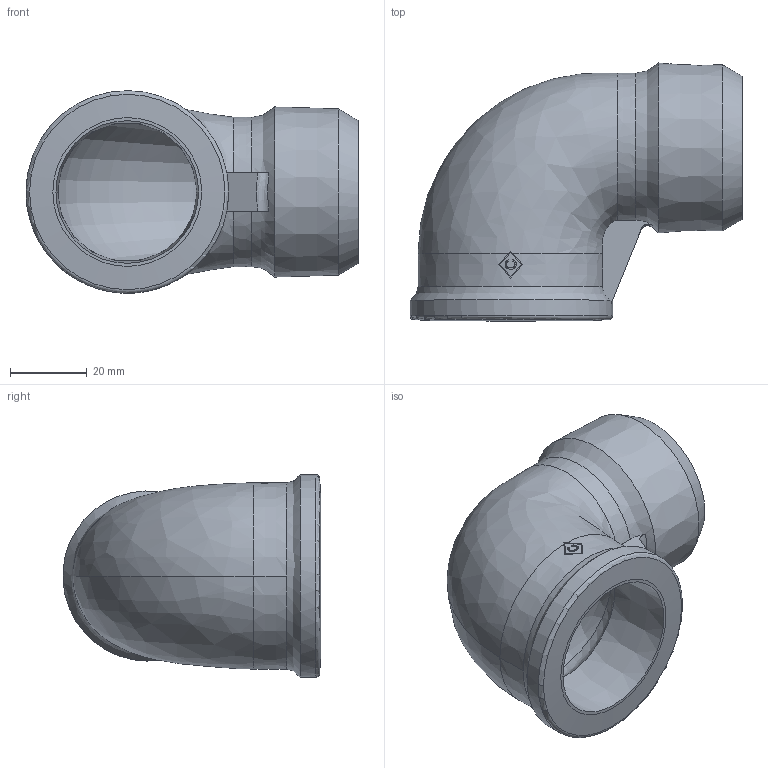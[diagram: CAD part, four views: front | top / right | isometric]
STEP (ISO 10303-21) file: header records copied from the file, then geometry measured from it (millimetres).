
FILE_DESCRIPTION((''),'2;1');
FILE_NAME('P:\Fastrack\53909_CRANE\Crane\Fig.152 M and F Elbow\New 1.25 inch\152-1.25.stp','2009-09-16T09:36:40',('btaylor'),(''),'Autodesk Inventor 2008','Autodesk Inventor 2008','');
FILE_SCHEMA(('AUTOMOTIVE_DESIGN { 1 0 10303 214 1 1 1 1 }'));
Length unit declared in the file: millimetre
Products named in the file (1): 152-1.25
Bounding box: 86.34 x 67.06 x 52.7 mm (x, y, z)
Volume: 56456.5 mm3; surface area: 25333 mm2
Topology: 1 solids, 1 shells, 46 faces, 162 edges, 118 vertices
Faces by surface type: bspline 26, plane 14, cone 4, torus 1, cylinder 1
Full cylindrical faces by diameter (mm): 52.7 x1
Entity records: 6383 total; most frequent: CARTESIAN_POINT 5216, ORIENTED_EDGE 310, EDGE_CURVE 155, DIRECTION 118, VERTEX_POINT 117, B_SPLINE_CURVE_WITH_KNOTS 106, EDGE_LOOP 54, AXIS2_PLACEMENT_3D 48
